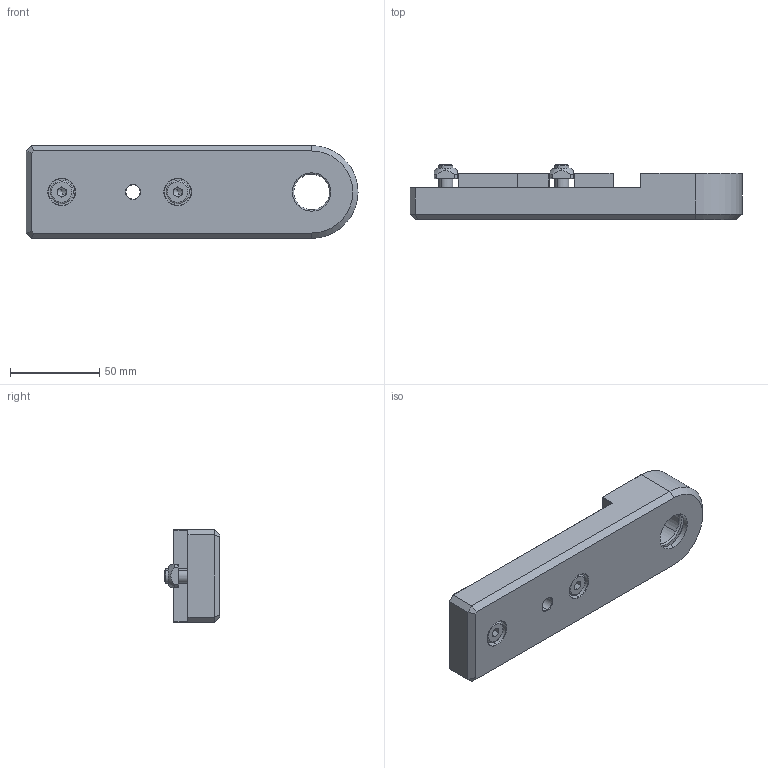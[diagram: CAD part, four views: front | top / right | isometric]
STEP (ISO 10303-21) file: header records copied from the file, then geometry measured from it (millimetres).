
FILE_DESCRIPTION (( 'STEP AP214' ), '1' );
FILE_NAME ('1.8122 Kuljetinhihnalaakeri reiällä 45CB20 C.STEP', '2026-03-23T09:46:47', ( '' ), ( '' ), 'SwSTEP 2.0', 'SolidWorks 2025', '' );
FILE_SCHEMA (( 'AUTOMOTIVE_DESIGN' ));
Length unit declared in the file: millimetre
Products named in the file (5): 1.8122 Kuljetinhihnalaakeri reiällä 45CB20 C; 1.2087 Kuusiokoloruuvi M8x25; 4.0005 Laakeri 2204 2RSETN9 ISB; 1.2009 Neliömutteri M8
Assembly tree (6 placements, depth 2):
  1.8122 Kuljetinhihnalaakeri reiällä 45CB20 C
    1.8122 Kuljetinhihnalaakeri reiällä 45CB20 C
    4.0005 Laakeri 2204 2RSETN9 ISB
    1.2087 Kuusiokoloruuvi M8x25  x2
    1.2009 Neliömutteri M8  x2
Bounding box: 186 x 31 x 52 mm (x, y, z)
Volume: 129734.9 mm3; surface area: 49911 mm2
Topology: 5 solids, 9 shells, 282 faces, 671 edges, 418 vertices
Faces by surface type: plane 151, cylinder 65, cone 50, torus 16
Entity records: 9147 total; most frequent: CARTESIAN_POINT 1293, DIRECTION 1227, ORIENTED_EDGE 1102, EDGE_CURVE 559, AXIS2_PLACEMENT_3D 449, VERTEX_POINT 351, LINE 329, VECTOR 329
